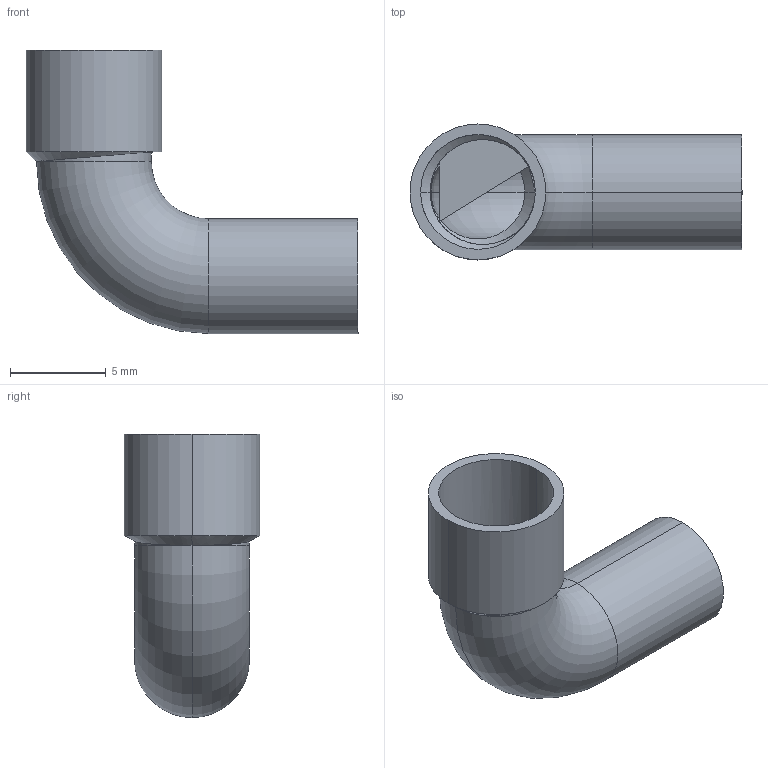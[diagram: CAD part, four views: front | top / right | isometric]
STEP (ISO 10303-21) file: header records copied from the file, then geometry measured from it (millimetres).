
FILE_DESCRIPTION (( 'STEP AP203' ), '1' );
FILE_NAME ('零件4.STEP', '2013-11-08T02:49:20', ( '微软用户' ), ( '微软中国' ), 'SwSTEP 2.0', 'SolidWorks 2010', '' );
FILE_SCHEMA (( 'CONFIG_CONTROL_DESIGN' ));
Length unit declared in the file: millimetre
Products named in the file (1): 錨璃4
Bounding box: 17.35 x 7.1 x 14.8 mm (x, y, z)
Volume: 226 mm3; surface area: 891 mm2
Topology: 3 solids, 3 shells, 26 faces, 58 edges, 36 vertices
Faces by surface type: cylinder 10, plane 6, bspline 6, torus 4
Entity records: 1208 total; most frequent: CARTESIAN_POINT 573, ORIENTED_EDGE 116, DIRECTION 113, EDGE_CURVE 58, AXIS2_PLACEMENT_3D 52, VERTEX_POINT 36, CIRCLE 31, EDGE_LOOP 30
